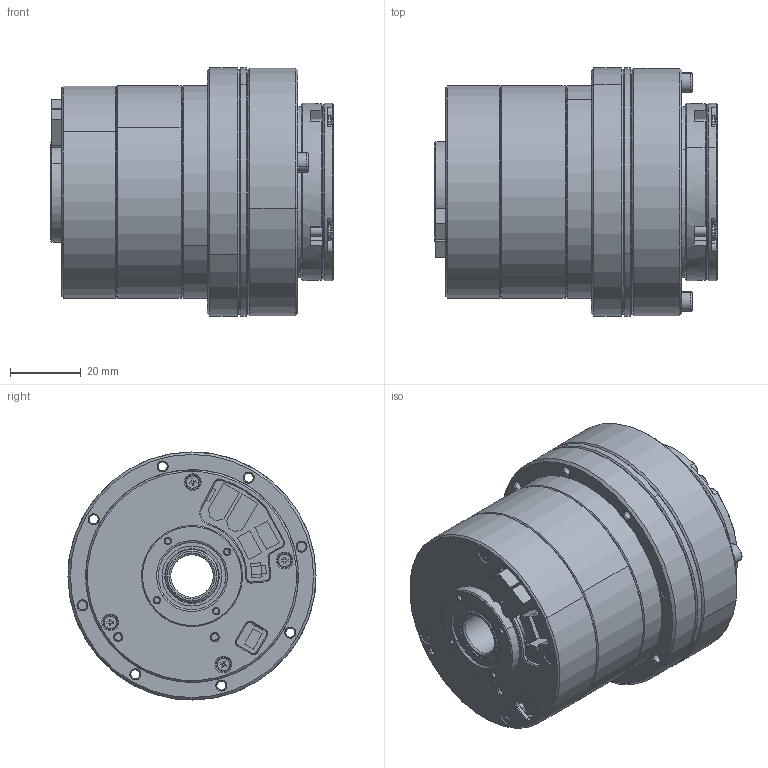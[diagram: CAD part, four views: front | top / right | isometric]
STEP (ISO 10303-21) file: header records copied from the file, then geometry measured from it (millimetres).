
FILE_DESCRIPTION (( 'STEP AP203' ), '1' );
FILE_NAME ('CRA-RI50-70-PRO-2-xxx-B-B0.STEP', '2024-07-31T07:06:54', ( '' ), ( '' ), 'SwSTEP 2.0', 'SolidWorks 2021', '' );
FILE_SCHEMA (( 'CONFIG_CONTROL_DESIGN' ));
Length unit declared in the file: millimetre
Products named in the file (1): CRA-RI50-70-PRO-2-xxx-B-B0
Bounding box: 79.6 x 70 x 70 mm (x, y, z)
Surface area: 47154.9 mm2 (no closed solid volume)
Topology: 0 solids, 80 shells, 649 faces, 2504 edges, 1924 vertices
Faces by surface type: plane 248, cylinder 215, cone 158, torus 28
Entity records: 31834 total; most frequent: CARTESIAN_POINT 11193, DIRECTION 4212, ORIENTED_EDGE 3678, EDGE_CURVE 2500, VERTEX_POINT 1924, AXIS2_PLACEMENT_3D 1495, LINE 1222, VECTOR 1222
